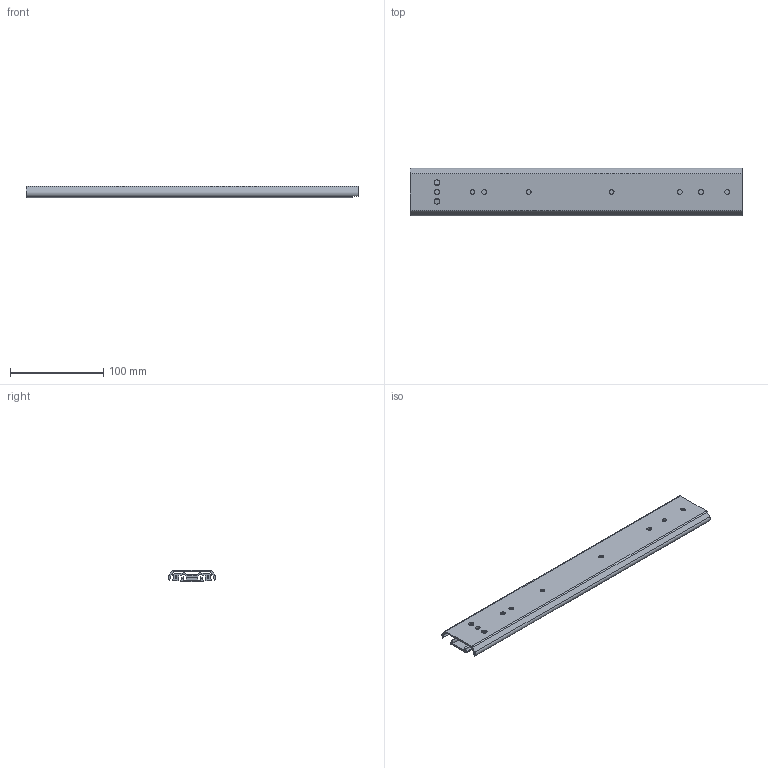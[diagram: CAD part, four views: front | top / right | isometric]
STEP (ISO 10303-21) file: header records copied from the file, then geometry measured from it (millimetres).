
FILE_DESCRIPTION( ( 'STEP AP203' ), '1' );
FILE_NAME( 'D:/export/antriebselemente/auszugschienen/3301_as_0_64902814Isometric_2.stp', '2018-12-11T10:26:58', ( '' ), ( '' ), ' ', 'PARTsolutions', ' ' );
FILE_SCHEMA( ( 'CONFIG_CONTROL_DESIGN' ) );
Length unit declared in the file: millimetre
Products named in the file (4): 3301_as_0_64902814; _3301_aussen 64902814 0 ; _3301_mitte 64902814 0 ; _3301_innen 64902814 0 
Assembly tree (3 placements, depth 2):
  3301_as_0_64902814
    _3301_aussen 64902814 0 
    _3301_mitte 64902814 0 
    _3301_innen 64902814 0 
Bounding box: 356 x 50.8 x 12.7 mm (x, y, z)
Volume: 111026.9 mm3; surface area: 112373.6 mm2
Topology: 3 solids, 3 shells, 152 faces, 440 edges, 294 vertices
Faces by surface type: plane 82, cylinder 70
Full cylindrical faces by diameter (mm): 6 x2
Entity records: 5229 total; most frequent: DIRECTION 888, CARTESIAN_POINT 884, ORIENTED_EDGE 872, EDGE_CURVE 436, AXIS2_PLACEMENT_3D 296, LINE 296, VECTOR 296, VERTEX_POINT 292
